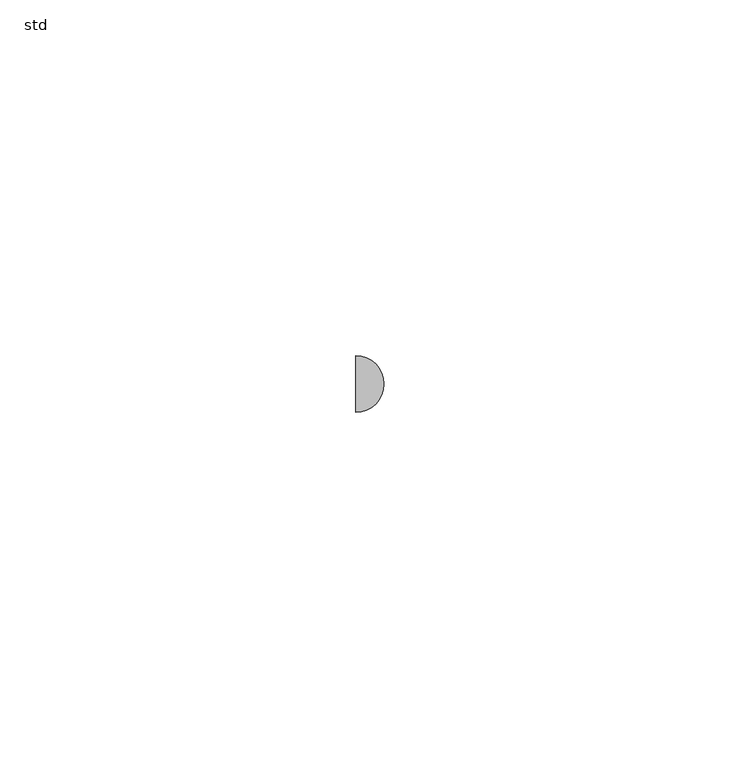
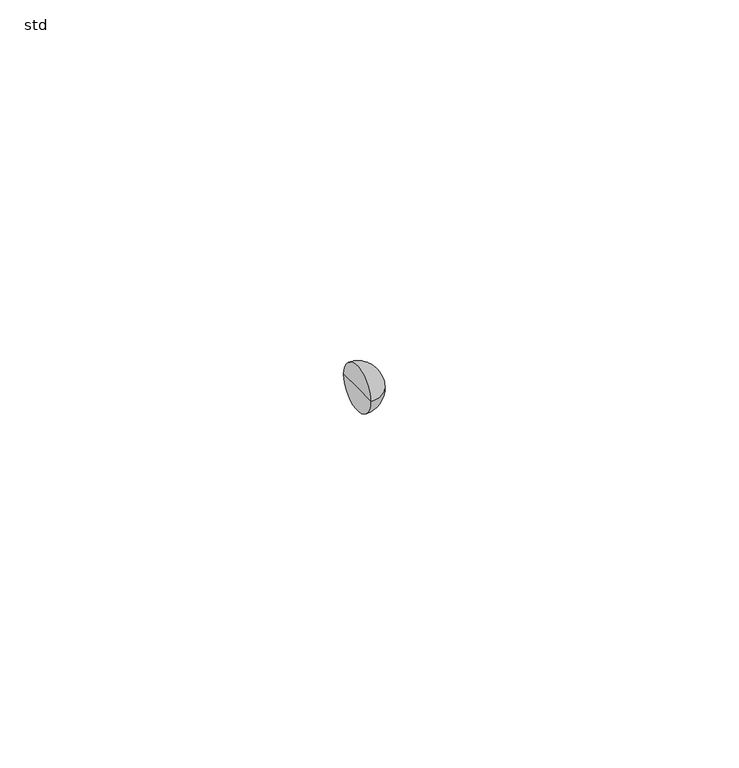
"""IFC4 building model written with IfcOpenShell, lengths in millimetres: pipe fitting geometry, PIF_ST_UN_GM-X double bend_ACO : std."""

from ifc_helpers import new_model, si_unit, point, frame, origin, place, context, project, spatial, circle_curve, ellipse_curve, trimmed, source, transform, mapped, element, save
from ifc_brep_helpers import plane_surface, revolved_surface, advanced_brep


def std_1f125482(model_context):
    return source(origin(), model_context, "Body", "AdvancedBrep", [
        advanced_brep(
        [(-203.2848246, -4.0, 0.0), (-203.2848246, 4.0, 0.0), (-199.2848246, 0.0, 0.0), (-203.2848246, 0.0, 0.0)],
        [
            (0, 1, circle_curve(frame((-203.2848246, 0.0, 0.0), z_axis=(1.0, 0.0, 0.0), x_axis=(0.0, 1.0, 0.0)), 4.0)),
            (1, 2, circle_curve(frame((-203.2848246, 0.0, 0.0), z_axis=(0.0, 0.0, -1.0), x_axis=(-1.0, 0.0, 0.0)), 4.0)),
            (2, 0, circle_curve(frame((-203.2848246, 0.0, 0.0), z_axis=(0.0, 0.0, -1.0), x_axis=(-1.0, 0.0, 0.0)), 4.0)),
            (1, 0, circle_curve(frame((-203.2848246, 0.0, 0.0), z_axis=(1.0, 0.0, 0.0), x_axis=(0.0, 1.0, 0.0)), 4.0)),
            (3, 1),
            (0, 3),
        ],
        [
            revolved_surface(trimmed(ellipse_curve(frame((-203.2848246, 0.0, 0.0), z_axis=(0.0, 0.0, 1.0), x_axis=(-1.0, 0.0, 0.0)), 4.0, 4.0), [point((-199.2848246, 0.0, 0.0))], [point((-203.2848246, 4.0, 0.0))], True, "CARTESIAN"), (-210.276502, 0.0, 0.0), (-1.0, 0.0, 0.0)),
            plane_surface(frame((-203.2848246, 0.0, 0.0), z_axis=(-1.0, 0.0, 0.0), x_axis=(0.0, 1.0, 0.0))),
        ],
        [
            (0, [[1, 2, 3]]),
            (0, [[4, -3, -2]]),
            (1, [[5, -1, 6]]),
            (1, [[-6, -4, -5]]),
        ],
    ),
    ])


if __name__ == "__main__":
    model = new_model("IFC4")
    model_context = context("Model", 3, world=origin())
    ifc_project = project(units=[si_unit("LENGTHUNIT", "METRE", prefix="MILLI")], contexts=[model_context])
    site = spatial("IfcSite", under=ifc_project)
    building = spatial("IfcBuilding", under=site)
    placement = place(None, origin())
    std_shape = std_1f125482(model_context)
    element("IfcPipeFitting", 1, ObjectType="PIF_ST_UN_GM-X double bend_ACO : std", at=placement, inside=building, context=model_context, shape_type="MappedRepresentation", body=[
        mapped(std_shape, transform((0.0, 0.0, 0.0), x_axis=(1.0, 0.0, 0.0), y_axis=(0.0, 1.0, 0.0), z_axis=(0.0, 0.0, 1.0))),
    ])
    save(model, "model.ifc")
